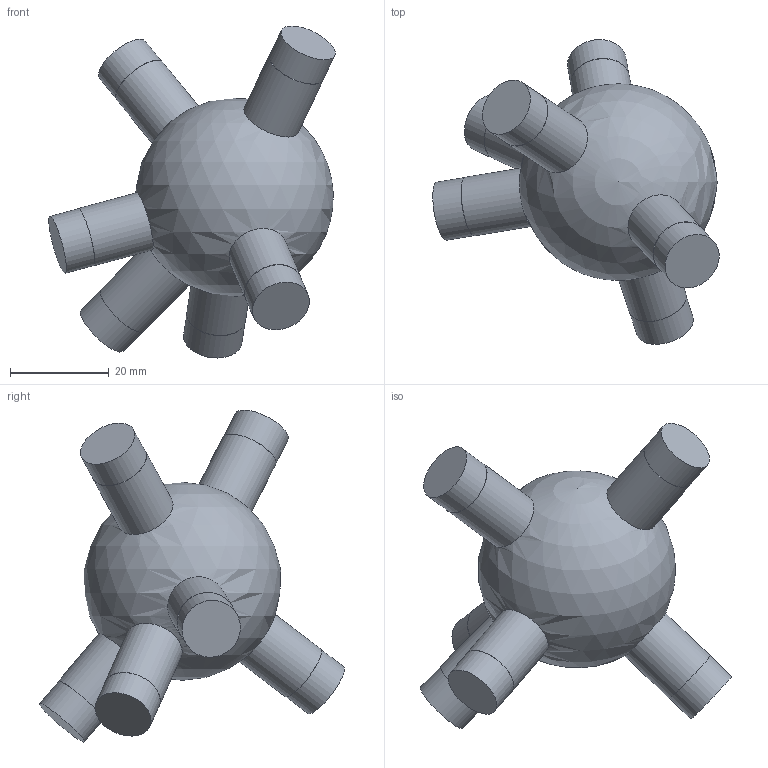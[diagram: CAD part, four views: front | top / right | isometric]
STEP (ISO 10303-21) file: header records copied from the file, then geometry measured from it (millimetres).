
FILE_DESCRIPTION(('Open CASCADE Model'),'2;1');
FILE_NAME('Open CASCADE Shape Model','2026-10-21T12:47:57',('Author'),( 'Open CASCADE'),'Open CASCADE STEP processor 7.9','Open CASCADE 7.9' ,'Unknown');
FILE_SCHEMA(('AUTOMOTIVE_DESIGN { 1 0 10303 214 1 1 1 1 }'));
Length unit declared in the file: millimetre
Products named in the file (1): Open CASCADE STEP translator 7.9 124
Bounding box: 57.87 x 61.58 x 67.08 mm (x, y, z)
Volume: 46130.8 mm3; surface area: 9333.6 mm2
Topology: 1 solids, 1 shells, 25 faces, 39 edges, 26 vertices
Faces by surface type: cylinder 12, plane 12, sphere 1
Full cylindrical faces by diameter (mm): 11.9 x6, 12 x6
Entity records: 1429 total; most frequent: CARTESIAN_POINT 564, DIRECTION 178, ORIENTED_EDGE 72, PCURVE 72, DEFINITIONAL_REPRESENTATION 72, LINE 60, VECTOR 60, AXIS2_PLACEMENT_3D 50
